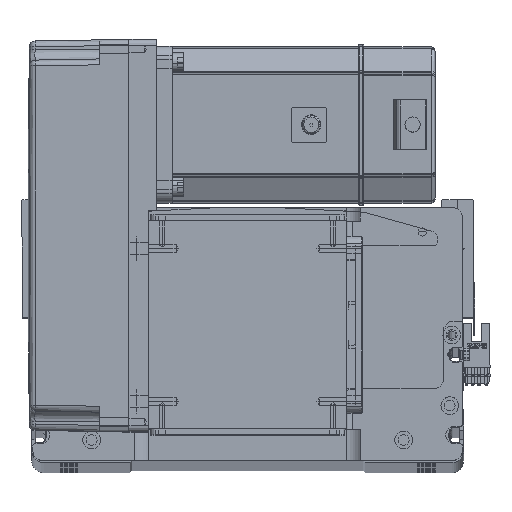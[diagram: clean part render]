
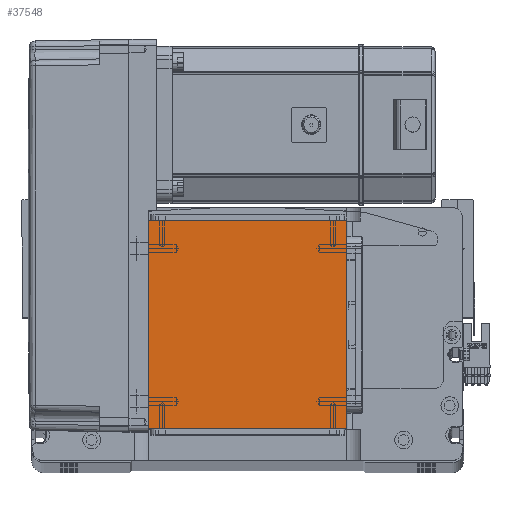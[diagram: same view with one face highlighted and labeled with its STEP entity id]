
A CAD part, top view. The second image highlights one B-rep face of the part: STEP entity #37548.
In plain terms, the highlighted planar face has unit normal (0, 0, 1).
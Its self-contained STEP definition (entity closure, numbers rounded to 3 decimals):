
#2739 = DIRECTION ( 'NONE',  ( -1., 0., 0. ) ) ;
#3416 = VERTEX_POINT ( 'NONE', #48835 ) ;
#3801 = CARTESIAN_POINT ( 'NONE',  ( -50.5, 16., 115. ) ) ;
#5959 = CARTESIAN_POINT ( 'NONE',  ( -50.5, 122., 115. ) ) ;
#5982 = EDGE_CURVE ( 'NONE', #55744, #19145, #38120, .T. ) ;
#7429 = CARTESIAN_POINT ( 'NONE',  ( -50.5, 122., 115. ) ) ;
#7854 = DIRECTION ( 'NONE',  ( 0., 1., 0. ) ) ;
#10212 = EDGE_CURVE ( 'NONE', #19145, #3416, #29591, .T. ) ;
#14364 = ORIENTED_EDGE ( 'NONE', *, *, #50818, .T. ) ;
#15992 = EDGE_LOOP ( 'NONE', ( #47302, #14364, #43304, #16090 ) ) ;
#16090 = ORIENTED_EDGE ( 'NONE', *, *, #10212, .T. ) ;
#16748 = CARTESIAN_POINT ( 'NONE',  ( 50.5, 122., 115. ) ) ;
#17643 = CARTESIAN_POINT ( 'NONE',  ( 50.5, 122., 115. ) ) ;
#18884 = VECTOR ( 'NONE', #19864, 1000. ) ;
#19145 = VERTEX_POINT ( 'NONE', #16748 ) ;
#19784 = LINE ( 'NONE', #3801, #56305 ) ;
#19864 = DIRECTION ( 'NONE',  ( 0., -1., 0. ) ) ;
#21435 = EDGE_CURVE ( 'NONE', #3416, #27015, #49060, .T. ) ;
#23470 = AXIS2_PLACEMENT_3D ( 'NONE', #32775, #46304, #45899 ) ;
#27015 = VERTEX_POINT ( 'NONE', #45963 ) ;
#27853 = PLANE ( 'NONE',  #23470 ) ;
#29591 = LINE ( 'NONE', #7429, #41513 ) ;
#32775 = CARTESIAN_POINT ( 'NONE',  ( 0., 0., 115. ) ) ;
#35622 = CARTESIAN_POINT ( 'NONE',  ( 50.5, 16., 115. ) ) ;
#37548 = ADVANCED_FACE ( 'NONE', ( #52969 ), #27853, .T. ) ;
#38120 = LINE ( 'NONE', #17643, #42327 ) ;
#41513 = VECTOR ( 'NONE', #2739, 1000. ) ;
#42327 = VECTOR ( 'NONE', #7854, 1000. ) ;
#43304 = ORIENTED_EDGE ( 'NONE', *, *, #5982, .T. ) ;
#45899 = DIRECTION ( 'NONE',  ( 1., 0., 0. ) ) ;
#45963 = CARTESIAN_POINT ( 'NONE',  ( -50.5, 16., 115. ) ) ;
#46304 = DIRECTION ( 'NONE',  ( 0., 0., 1. ) ) ;
#47302 = ORIENTED_EDGE ( 'NONE', *, *, #21435, .T. ) ;
#48276 = DIRECTION ( 'NONE',  ( 1., 0., 0. ) ) ;
#48835 = CARTESIAN_POINT ( 'NONE',  ( -50.5, 122., 115. ) ) ;
#49060 = LINE ( 'NONE', #5959, #18884 ) ;
#50818 = EDGE_CURVE ( 'NONE', #27015, #55744, #19784, .T. ) ;
#52969 = FACE_OUTER_BOUND ( 'NONE', #15992, .T. ) ;
#55744 = VERTEX_POINT ( 'NONE', #35622 ) ;
#56305 = VECTOR ( 'NONE', #48276, 1000. ) ;
